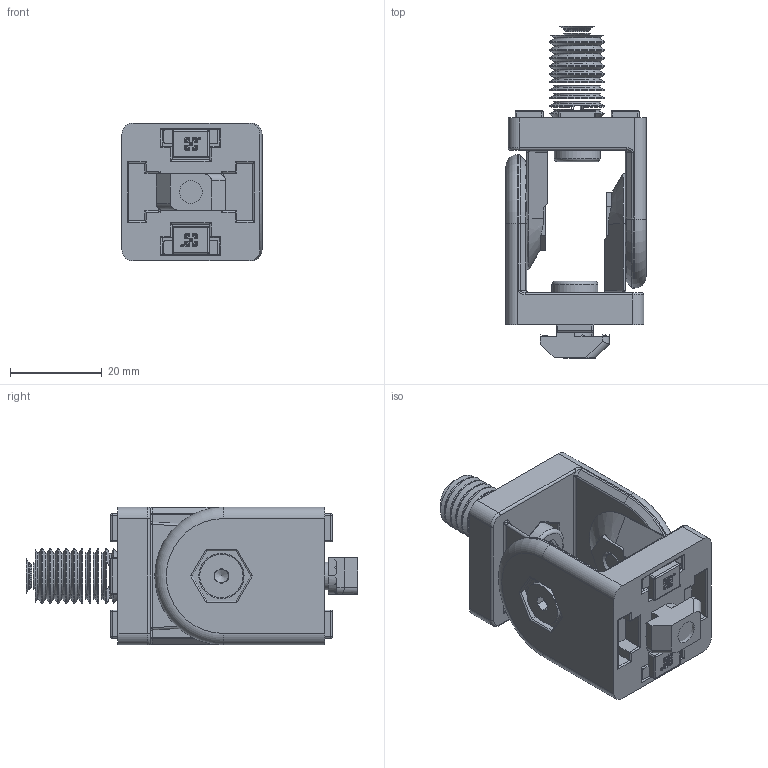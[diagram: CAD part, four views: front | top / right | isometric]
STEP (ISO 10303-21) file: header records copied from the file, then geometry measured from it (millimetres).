
FILE_DESCRIPTION(/* description */ ('Giunto mobile 30x30 con viti e boccole'),/* implementation_level */ '2;1');
FILE_NAME(/* name */ 'C:\omnitec\Desktop\Accessori Complementari\JM30-30B.stp',/* time_stamp */ '2021-02-19T15:12:18+01:00',/* author */ ('omnitec'),/* organization */ ('Microsoft'),/* preprocessor_version */ 'ST-DEVELOPER v18.1',/* originating_system */ 'Autodesk Inventor 2021',/* authorisation */ '');
FILE_SCHEMA (('AUTOMOTIVE_DESIGN { 1 0 10303 214 3 1 1 }'));
Length unit declared in the file: millimetre
Products named in the file (1): JM30-30B
Bounding box: 30.5 x 72.2 x 30 mm (x, y, z)
Surface area: 15221.4 mm2 (no closed solid volume)
Topology: 0 solids, 36 shells, 976 faces, 3426 edges, 2323 vertices
Faces by surface type: plane 492, cylinder 359, cone 39, sphere 36, torus 29, bspline 21
Full cylindrical faces by diameter (mm): 0.366 x4, 0.444 x6, 0.555 x6, 5 x1, 6 x5, 9.43 x2, 10 x2, 12 x8
Entity records: 39125 total; most frequent: CARTESIAN_POINT 10102, DIRECTION 6067, ORIENTED_EDGE 5387, EDGE_CURVE 3380, LINE 2339, VECTOR 2339, VERTEX_POINT 2323, AXIS2_PLACEMENT_3D 1864
